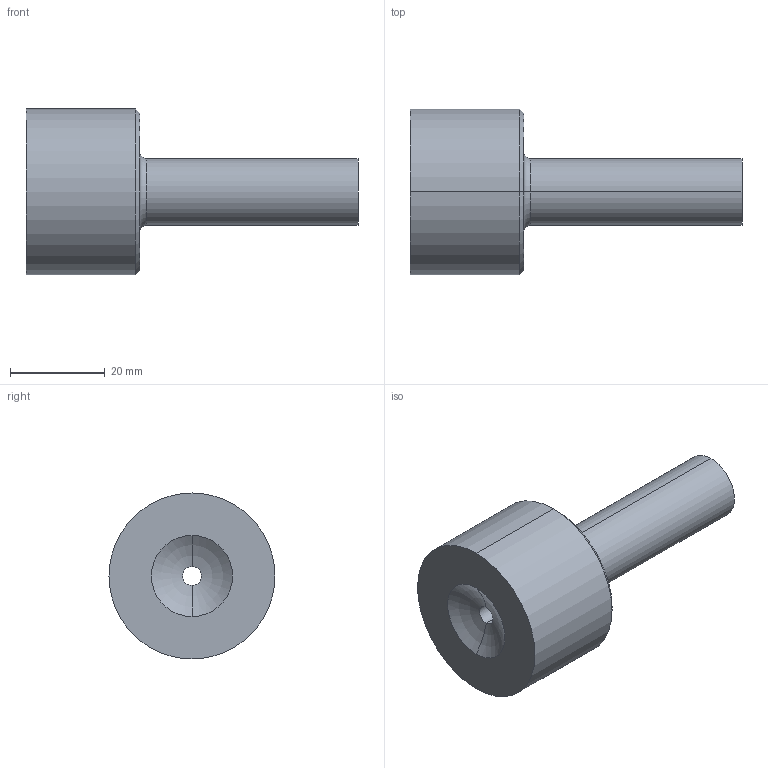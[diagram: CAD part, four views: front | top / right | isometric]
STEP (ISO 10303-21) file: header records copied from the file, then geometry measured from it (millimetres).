
FILE_DESCRIPTION (( 'STEP AP214' ), '1' );
FILE_NAME ('B3 - B3T 24x70.STEP', '2019-06-05T08:32:45', ( 'August' ), ( '' ), 'SwSTEP 2.0', 'SolidWorks 2018', '' );
FILE_SCHEMA (( 'AUTOMOTIVE_DESIGN' ));
Length unit declared in the file: millimetre
Products named in the file (1): B3 - B3T 24x70
Bounding box: 70 x 35 x 35 mm (x, y, z)
Volume: 27562.6 mm3; surface area: 7786.4 mm2
Topology: 1 solids, 1 shells, 15 faces, 30 edges, 18 vertices
Faces by surface type: cone 4, cylinder 4, torus 4, plane 3
Entity records: 436 total; most frequent: DIRECTION 84, CARTESIAN_POINT 64, ORIENTED_EDGE 60, AXIS2_PLACEMENT_3D 38, EDGE_CURVE 30, CIRCLE 22, EDGE_LOOP 18, VERTEX_POINT 18
